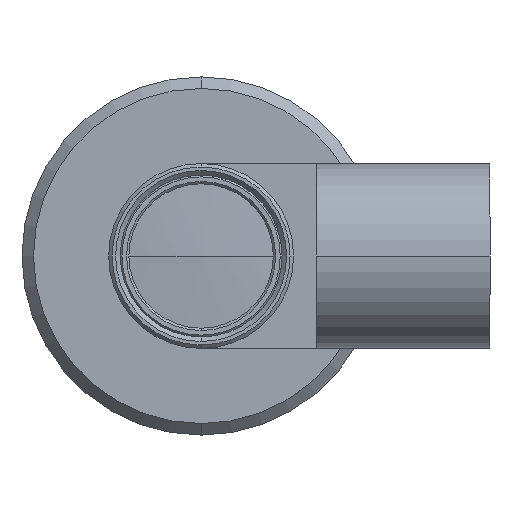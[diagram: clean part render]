
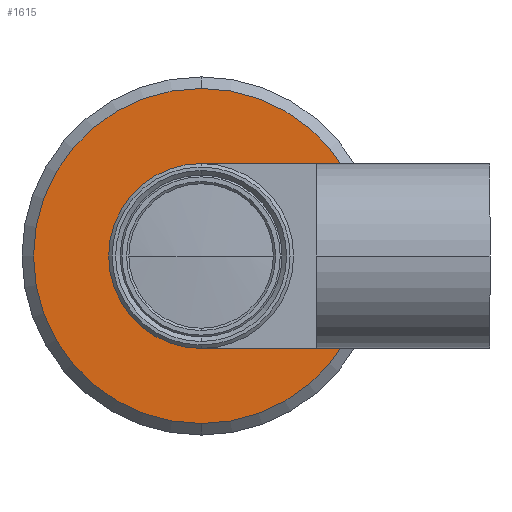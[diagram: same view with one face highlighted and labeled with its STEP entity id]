
A CAD part, left-side view. The second image highlights one B-rep face of the part: STEP entity #1615.
In plain terms, the highlighted planar face has unit normal (-1, 0, 0).
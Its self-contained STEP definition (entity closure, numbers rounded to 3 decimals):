
#10 = CIRCLE ( 'NONE', #1266, 8. ) ;
#80 = ORIENTED_EDGE ( 'NONE', *, *, #894, .T. ) ;
#134 = ORIENTED_EDGE ( 'NONE', *, *, #1779, .T. ) ;
#167 = VERTEX_POINT ( 'NONE', #908 ) ;
#187 = DIRECTION ( 'NONE',  ( 0., 0., 1. ) ) ;
#388 = CARTESIAN_POINT ( 'NONE',  ( -24.026, 0., 0. ) ) ;
#392 = CIRCLE ( 'NONE', #574, 14.5 ) ;
#509 = DIRECTION ( 'NONE',  ( -1., 0., 0. ) ) ;
#570 = ORIENTED_EDGE ( 'NONE', *, *, #758, .F. ) ;
#574 = AXIS2_PLACEMENT_3D ( 'NONE', #2131, #686, #1709 ) ;
#615 = EDGE_LOOP ( 'NONE', ( #570, #822 ) ) ;
#643 = FACE_BOUND ( 'NONE', #615, .T. ) ;
#686 = DIRECTION ( 'NONE',  ( -1., 0., 0. ) ) ;
#758 = EDGE_CURVE ( 'NONE', #1500, #1372, #1008, .T. ) ;
#795 = DIRECTION ( 'NONE',  ( 0., 0., 1. ) ) ;
#807 = CIRCLE ( 'NONE', #1910, 14.5 ) ;
#822 = ORIENTED_EDGE ( 'NONE', *, *, #2412, .F. ) ;
#894 = EDGE_CURVE ( 'NONE', #167, #1606, #807, .T. ) ;
#908 = CARTESIAN_POINT ( 'NONE',  ( -24.026, 0., -14.5 ) ) ;
#977 = CARTESIAN_POINT ( 'NONE',  ( -24.026, 0., 0. ) ) ;
#996 = CARTESIAN_POINT ( 'NONE',  ( -24.026, 0., 14.5 ) ) ;
#1004 = PLANE ( 'NONE',  #1861 ) ;
#1008 = CIRCLE ( 'NONE', #2229, 8. ) ;
#1212 = DIRECTION ( 'NONE',  ( 1., 0., 0. ) ) ;
#1266 = AXIS2_PLACEMENT_3D ( 'NONE', #1721, #509, #1936 ) ;
#1372 = VERTEX_POINT ( 'NONE', #2600 ) ;
#1500 = VERTEX_POINT ( 'NONE', #2594 ) ;
#1605 = DIRECTION ( 'NONE',  ( -1., 0., 0. ) ) ;
#1606 = VERTEX_POINT ( 'NONE', #996 ) ;
#1615 = ADVANCED_FACE ( 'NONE', ( #643, #2347 ), #1004, .F. ) ;
#1709 = DIRECTION ( 'NONE',  ( 0., 0., 1. ) ) ;
#1721 = CARTESIAN_POINT ( 'NONE',  ( -24.026, 0., 0. ) ) ;
#1779 = EDGE_CURVE ( 'NONE', #1606, #167, #392, .T. ) ;
#1827 = CARTESIAN_POINT ( 'NONE',  ( -24.026, 8., 0. ) ) ;
#1861 = AXIS2_PLACEMENT_3D ( 'NONE', #1827, #1212, #2640 ) ;
#1910 = AXIS2_PLACEMENT_3D ( 'NONE', #977, #2031, #795 ) ;
#1936 = DIRECTION ( 'NONE',  ( 0., 0., 1. ) ) ;
#1961 = EDGE_LOOP ( 'NONE', ( #80, #134 ) ) ;
#2031 = DIRECTION ( 'NONE',  ( -1., 0., 0. ) ) ;
#2131 = CARTESIAN_POINT ( 'NONE',  ( -24.026, 0., 0. ) ) ;
#2229 = AXIS2_PLACEMENT_3D ( 'NONE', #388, #1605, #187 ) ;
#2347 = FACE_OUTER_BOUND ( 'NONE', #1961, .T. ) ;
#2412 = EDGE_CURVE ( 'NONE', #1372, #1500, #10, .T. ) ;
#2594 = CARTESIAN_POINT ( 'NONE',  ( -24.026, 0., 8. ) ) ;
#2600 = CARTESIAN_POINT ( 'NONE',  ( -24.026, 0., -8. ) ) ;
#2640 = DIRECTION ( 'NONE',  ( 0., 0., -1. ) ) ;
